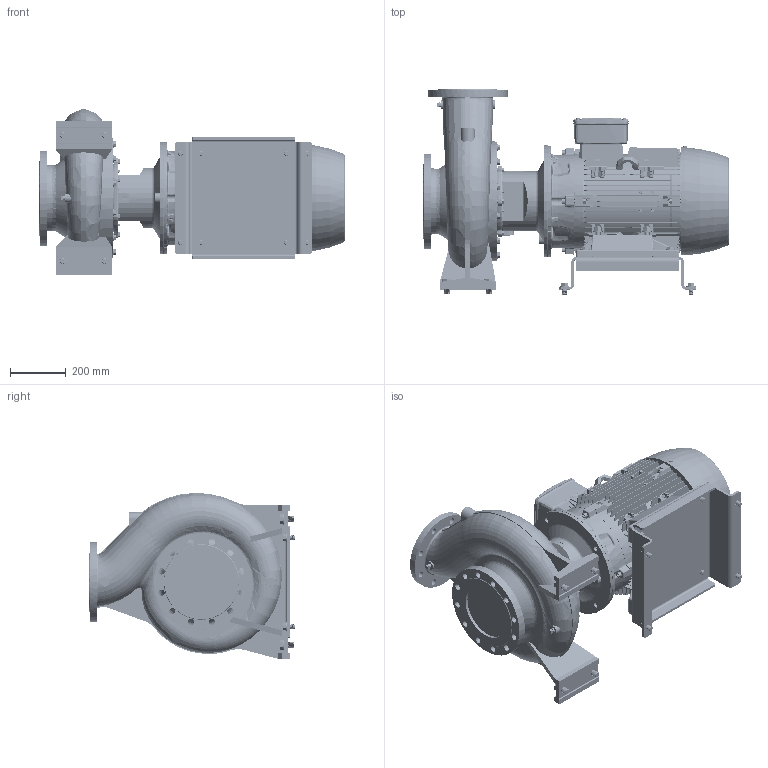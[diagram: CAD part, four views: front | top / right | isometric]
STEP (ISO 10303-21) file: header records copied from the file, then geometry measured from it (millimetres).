
FILE_DESCRIPTION (( 'STEP AP214' ), '1' );
FILE_NAME ('GSD4 150-315_30_(200ML)_W21.STEP', '2026-07-01T02:38:02', ( '' ), ( '' ), 'SwSTEP 2.0', 'SolidWorks 2024', '' );
FILE_SCHEMA (( 'AUTOMOTIVE_DESIGN' ));
Length unit declared in the file: millimetre
Products named in the file (12): Parametric Flat Washer_M20; Parametric Flat Washer_M16; Parametric bolt and washer_SFT-A403B; Parametric bolt_SFT-A359B; Parametric bolt_SFT-A403B; GSD4 150-315_30_(200ML)_W21; Parametric bolt and washer_SFT-A351B; Parametric bolt and washer_SFT-A359B; 200M_L ALIE3_W21T_B35; CGS11-5274; Parametric bolt_SFT-A351B; 150-315-200M_L_ﾃﾞﾌｫﾙﾄ
Assembly tree (21 placements, depth 3):
  GSD4 150-315_30_(200ML)_W21
    150-315-200M_L_ﾃﾞﾌｫﾙﾄ
    CGS11-5274
    Parametric bolt and washer_SFT-A403B  x4
      Parametric bolt_SFT-A403B
      Parametric Flat Washer_M20
    Parametric bolt and washer_SFT-A351B  x4
      Parametric bolt_SFT-A351B
      Parametric Flat Washer_M16
    Parametric bolt and washer_SFT-A359B  x4
      Parametric bolt_SFT-A359B
      Parametric Flat Washer_M16
    200M_L ALIE3_W21T_B35
Bounding box: 1093.8 x 733 x 593.47 mm (x, y, z)
Volume: 119810255.1 mm3; surface area: 5572718.3 mm2
Topology: 49 solids, 59 shells, 7511 faces, 19465 edges, 12544 vertices
Faces by surface type: plane 4314, cylinder 1424, bspline 943, cone 638, torus 192
Entity records: 296378 total; most frequent: CARTESIAN_POINT 137872, ORIENTED_EDGE 35466, DIRECTION 28436, EDGE_CURVE 17733, VERTEX_POINT 11473, VECTOR 10912, LINE 10912, AXIS2_PLACEMENT_3D 8762
